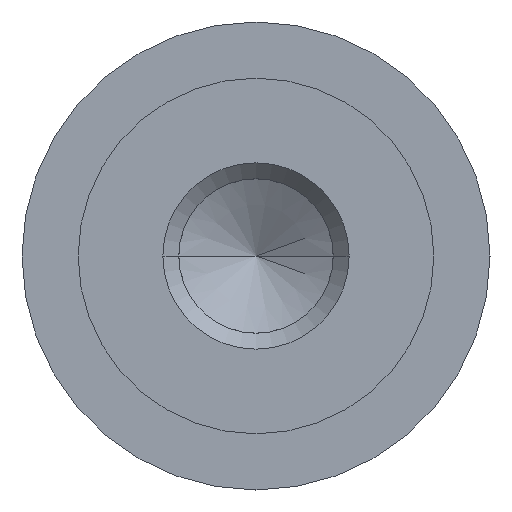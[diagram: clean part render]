
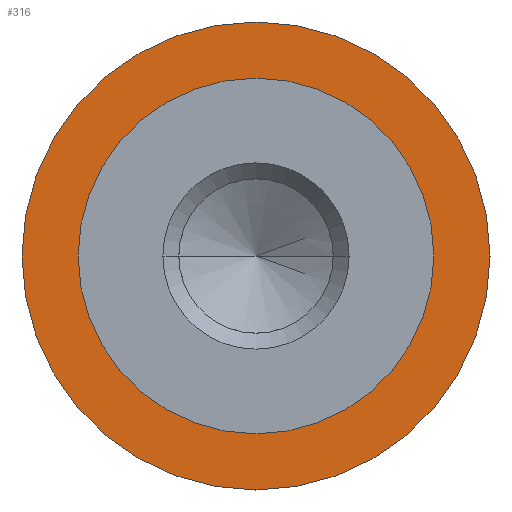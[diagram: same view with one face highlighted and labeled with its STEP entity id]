
A CAD part, left-side view. The second image highlights one B-rep face of the part: STEP entity #316.
In plain terms, the highlighted planar face has unit normal (-1, 0, 0).
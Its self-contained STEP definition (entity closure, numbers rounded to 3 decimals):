
#12 = DIRECTION ( 'NONE',  ( -1., 0., 0. ) ) ;
#49 = AXIS2_PLACEMENT_3D ( 'NONE', #162, #694, #529 ) ;
#55 = CARTESIAN_POINT ( 'NONE',  ( -7.5, 3.8, 0. ) ) ;
#66 = EDGE_CURVE ( 'NONE', #340, #731, #203, .T. ) ;
#76 = DIRECTION ( 'NONE',  ( -1., 0., 0. ) ) ;
#77 = ORIENTED_EDGE ( 'NONE', *, *, #695, .F. ) ;
#92 = EDGE_CURVE ( 'NONE', #731, #340, #411, .T. ) ;
#97 = AXIS2_PLACEMENT_3D ( 'NONE', #306, #183, #180 ) ;
#106 = FACE_OUTER_BOUND ( 'NONE', #206, .T. ) ;
#111 = CARTESIAN_POINT ( 'NONE',  ( -7.5, 0., -3.8 ) ) ;
#132 = AXIS2_PLACEMENT_3D ( 'NONE', #553, #12, #252 ) ;
#153 = FACE_BOUND ( 'NONE', #279, .T. ) ;
#162 = CARTESIAN_POINT ( 'NONE',  ( -7.5, 0., 0. ) ) ;
#170 = EDGE_CURVE ( 'NONE', #198, #711, #472, .T. ) ;
#180 = DIRECTION ( 'NONE',  ( 0., 0., 1. ) ) ;
#183 = DIRECTION ( 'NONE',  ( -1., 0., 0. ) ) ;
#194 = ORIENTED_EDGE ( 'NONE', *, *, #66, .T. ) ;
#198 = VERTEX_POINT ( 'NONE', #382 ) ;
#203 = CIRCLE ( 'NONE', #246, 5. ) ;
#206 = EDGE_LOOP ( 'NONE', ( #453, #194 ) ) ;
#246 = AXIS2_PLACEMENT_3D ( 'NONE', #556, #76, #723 ) ;
#252 = DIRECTION ( 'NONE',  ( 0., 0., 1. ) ) ;
#279 = EDGE_LOOP ( 'NONE', ( #445, #77 ) ) ;
#306 = CARTESIAN_POINT ( 'NONE',  ( -7.5, 0., 0. ) ) ;
#316 = ADVANCED_FACE ( 'NONE', ( #153, #106 ), #592, .F. ) ;
#340 = VERTEX_POINT ( 'NONE', #768 ) ;
#382 = CARTESIAN_POINT ( 'NONE',  ( -7.5, 0., 3.8 ) ) ;
#390 = CIRCLE ( 'NONE', #49, 3.8 ) ;
#411 = CIRCLE ( 'NONE', #97, 5. ) ;
#423 = AXIS2_PLACEMENT_3D ( 'NONE', #55, #526, #641 ) ;
#445 = ORIENTED_EDGE ( 'NONE', *, *, #170, .F. ) ;
#453 = ORIENTED_EDGE ( 'NONE', *, *, #92, .T. ) ;
#472 = CIRCLE ( 'NONE', #132, 3.8 ) ;
#526 = DIRECTION ( 'NONE',  ( 1., 0., 0. ) ) ;
#529 = DIRECTION ( 'NONE',  ( 0., 0., 1. ) ) ;
#553 = CARTESIAN_POINT ( 'NONE',  ( -7.5, 0., 0. ) ) ;
#555 = CARTESIAN_POINT ( 'NONE',  ( -7.5, 0., 5. ) ) ;
#556 = CARTESIAN_POINT ( 'NONE',  ( -7.5, 0., 0. ) ) ;
#592 = PLANE ( 'NONE',  #423 ) ;
#641 = DIRECTION ( 'NONE',  ( 0., 0., -1. ) ) ;
#694 = DIRECTION ( 'NONE',  ( -1., 0., 0. ) ) ;
#695 = EDGE_CURVE ( 'NONE', #711, #198, #390, .T. ) ;
#711 = VERTEX_POINT ( 'NONE', #111 ) ;
#723 = DIRECTION ( 'NONE',  ( 0., 0., 1. ) ) ;
#731 = VERTEX_POINT ( 'NONE', #555 ) ;
#768 = CARTESIAN_POINT ( 'NONE',  ( -7.5, 0., -5. ) ) ;
